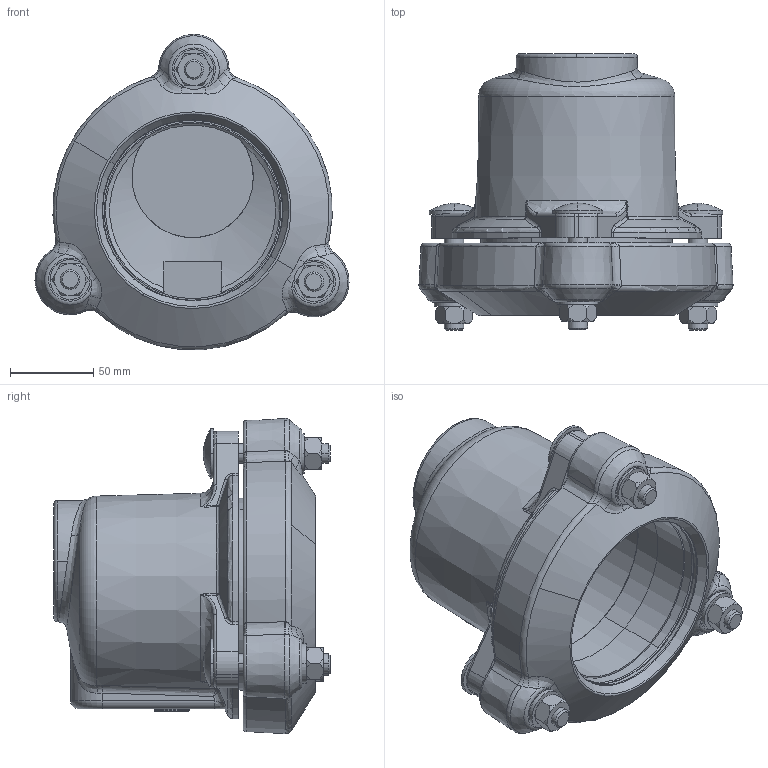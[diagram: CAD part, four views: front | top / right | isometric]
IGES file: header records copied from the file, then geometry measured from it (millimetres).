
Global section: file name: No Iges File Name specified; native system: AutoDesk Inventor R12.0; preprocessor: AutoDesk Inventor Iges Exporter R12.0; date: 20120423.125048; units: millimetre
Bounding box: 189.17 x 166.39 x 189.89 mm (x, y, z)
Volume: 712539 mm3; surface area: 211822.9 mm2
Topology: 1 solids, 1 shells, 554 faces, 1445 edges, 886 vertices
Faces by surface type: bspline 141, plane 111, torus 80, cylinder 79, cone 72, revolution 70, sphere 1
